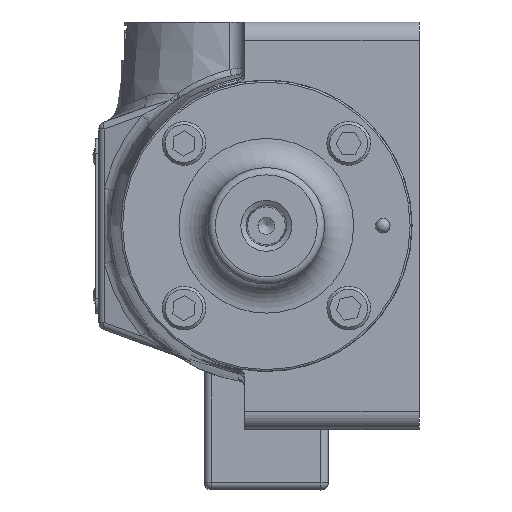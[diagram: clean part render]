
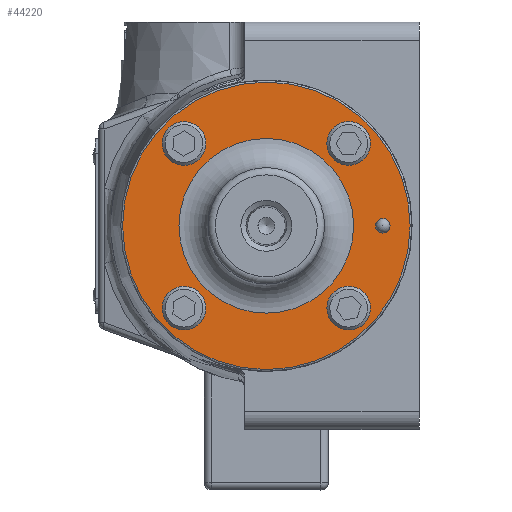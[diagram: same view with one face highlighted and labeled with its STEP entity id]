
A CAD part, left-side view. The second image highlights one B-rep face of the part: STEP entity #44220.
In plain terms, the highlighted planar face has unit normal (-1, 0, 0).
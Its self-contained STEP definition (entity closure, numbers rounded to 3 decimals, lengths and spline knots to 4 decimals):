
#922=FACE_BOUND('',#7556,.T.);
#923=FACE_BOUND('',#7557,.T.);
#924=FACE_BOUND('',#7558,.T.);
#925=FACE_BOUND('',#7559,.T.);
#926=FACE_BOUND('',#7560,.T.);
#927=FACE_BOUND('',#7561,.T.);
#2340=CIRCLE('',#47124,0.4763);
#2343=CIRCLE('',#47137,0.4763);
#2346=CIRCLE('',#47150,0.4763);
#2349=CIRCLE('',#47163,0.4763);
#2352=CIRCLE('',#47168,1.905);
#2361=CIRCLE('',#47182,3.1353);
#2389=CIRCLE('',#47237,0.1588);
#2390=CIRCLE('',#47238,0.1588);
#4932=FACE_OUTER_BOUND('',#7555,.T.);
#7555=EDGE_LOOP('',(#32238));
#7556=EDGE_LOOP('',(#32239));
#7557=EDGE_LOOP('',(#32240));
#7558=EDGE_LOOP('',(#32241));
#7559=EDGE_LOOP('',(#32242));
#7560=EDGE_LOOP('',(#32243,#32244));
#7561=EDGE_LOOP('',(#32245));
#18103=VERTEX_POINT('',#79488);
#18118=VERTEX_POINT('',#79536);
#18133=VERTEX_POINT('',#79584);
#18148=VERTEX_POINT('',#79632);
#18150=VERTEX_POINT('',#79640);
#18157=VERTEX_POINT('',#79663);
#18207=VERTEX_POINT('',#79812);
#18208=VERTEX_POINT('',#79813);
#23085=EDGE_CURVE('',#18103,#18103,#2340,.T.);
#23108=EDGE_CURVE('',#18118,#18118,#2343,.T.);
#23131=EDGE_CURVE('',#18133,#18133,#2346,.T.);
#23154=EDGE_CURVE('',#18148,#18148,#2349,.T.);
#23158=EDGE_CURVE('',#18150,#18150,#2352,.T.);
#23169=EDGE_CURVE('',#18157,#18157,#2361,.T.);
#23240=EDGE_CURVE('',#18207,#18208,#2389,.T.);
#23241=EDGE_CURVE('',#18208,#18207,#2390,.T.);
#32238=ORIENTED_EDGE('',*,*,#23169,.F.);
#32239=ORIENTED_EDGE('',*,*,#23085,.T.);
#32240=ORIENTED_EDGE('',*,*,#23108,.T.);
#32241=ORIENTED_EDGE('',*,*,#23131,.T.);
#32242=ORIENTED_EDGE('',*,*,#23154,.T.);
#32243=ORIENTED_EDGE('',*,*,#23240,.T.);
#32244=ORIENTED_EDGE('',*,*,#23241,.T.);
#32245=ORIENTED_EDGE('',*,*,#23158,.F.);
#40044=PLANE('',#47262);
#44220=ADVANCED_FACE('',(#4932,#922,#923,#924,#925,#926,#927),#40044,.F.);
#47124=AXIS2_PLACEMENT_3D('',#79490,#53746,#53747);
#47137=AXIS2_PLACEMENT_3D('',#79538,#53792,#53793);
#47150=AXIS2_PLACEMENT_3D('',#79586,#53838,#53839);
#47163=AXIS2_PLACEMENT_3D('',#79634,#53884,#53885);
#47168=AXIS2_PLACEMENT_3D('',#79642,#53895,#53896);
#47182=AXIS2_PLACEMENT_3D('',#79665,#53925,#53926);
#47237=AXIS2_PLACEMENT_3D('',#79814,#54078,#54079);
#47238=AXIS2_PLACEMENT_3D('',#79815,#54080,#54081);
#47262=AXIS2_PLACEMENT_3D('',#79859,#54135,#54136);
#53746=DIRECTION('center_axis',(1.,0.,0.));
#53747=DIRECTION('ref_axis',(0.,-0.2,-0.98));
#53792=DIRECTION('center_axis',(1.,0.,0.));
#53793=DIRECTION('ref_axis',(0.,-0.488,-0.873));
#53838=DIRECTION('center_axis',(1.,0.,0.));
#53839=DIRECTION('ref_axis',(0.,-1.,-0.02));
#53884=DIRECTION('center_axis',(1.,0.,0.));
#53885=DIRECTION('ref_axis',(0.,-0.004,
-1.));
#53895=DIRECTION('center_axis',(-1.,0.,0.));
#53896=DIRECTION('ref_axis',(0.,0.,
-1.));
#53925=DIRECTION('center_axis',(1.,0.,0.));
#53926=DIRECTION('ref_axis',(0.,0.,
-1.));
#54078=DIRECTION('center_axis',(1.,0.,0.));
#54079=DIRECTION('ref_axis',(0.,0.,
-1.));
#54080=DIRECTION('center_axis',(1.,0.,0.));
#54081=DIRECTION('ref_axis',(0.,0.,
-1.));
#54135=DIRECTION('center_axis',(1.,0.,0.));
#54136=DIRECTION('ref_axis',(0.,0.,
-1.));
#79488=CARTESIAN_POINT('',(-6.1074,-1.7009,-1.3294));
#79490=CARTESIAN_POINT('Origin',(-6.1074,-1.7961,-1.7961));
#79536=CARTESIAN_POINT('',(-6.1074,2.0283,2.2119));
#79538=CARTESIAN_POINT('Origin',(-6.1074,1.7961,1.7961));
#79584=CARTESIAN_POINT('',(-6.1074,2.2722,-1.7864));
#79586=CARTESIAN_POINT('Origin',(-6.1074,1.7961,-1.7961));
#79632=CARTESIAN_POINT('',(-6.1074,-1.7941,2.2723));
#79634=CARTESIAN_POINT('Origin',(-6.1074,-1.7961,1.7961));
#79640=CARTESIAN_POINT('',(-6.1074,0.,1.905));
#79642=CARTESIAN_POINT('Origin',(-6.1074,0.,0.));
#79663=CARTESIAN_POINT('',(-6.1074,0.,3.1353));
#79665=CARTESIAN_POINT('Origin',(-6.1074,0.,0.));
#79812=CARTESIAN_POINT('',(-6.1074,-2.54,0.1587));
#79813=CARTESIAN_POINT('',(-6.1074,-2.54,-0.1588));
#79814=CARTESIAN_POINT('Origin',(-6.1074,-2.54,0.));
#79815=CARTESIAN_POINT('Origin',(-6.1074,-2.54,0.));
#79859=CARTESIAN_POINT('Origin',(-6.1074,0.,0.));
